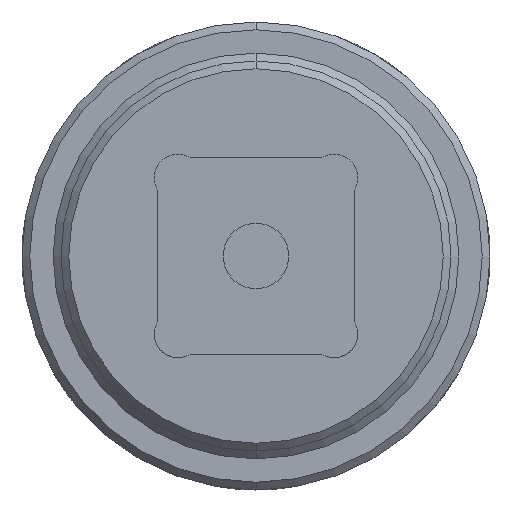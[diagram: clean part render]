
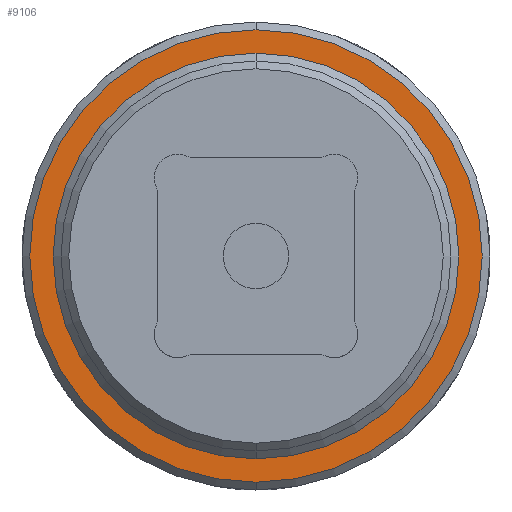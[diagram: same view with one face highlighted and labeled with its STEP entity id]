
A CAD part, front view. The second image highlights one B-rep face of the part: STEP entity #9106.
In plain terms, the highlighted planar face has unit normal (0, -1, 0).
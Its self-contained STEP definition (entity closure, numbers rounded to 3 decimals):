
#424 = CARTESIAN_POINT ( 'NONE',  ( -10.571, -27.003, 75. ) ) ;
#561 = AXIS2_PLACEMENT_3D ( 'NONE', #9326, #3386, #8279 ) ;
#642 = DIRECTION ( 'NONE',  ( 0., -1., 0. ) ) ;
#1466 = CARTESIAN_POINT ( 'NONE',  ( -10.571, -27.003, 89.5 ) ) ;
#1534 = DIRECTION ( 'NONE',  ( 0., 0., 1. ) ) ;
#1579 = DIRECTION ( 'NONE',  ( 0., 0., 1. ) ) ;
#1653 = VERTEX_POINT ( 'NONE', #1466 ) ;
#2092 = AXIS2_PLACEMENT_3D ( 'NONE', #9800, #4804, #1579 ) ;
#2094 = CIRCLE ( 'NONE', #9700, 13. ) ;
#2493 = ORIENTED_EDGE ( 'NONE', *, *, #10077, .T. ) ;
#2662 = EDGE_CURVE ( 'NONE', #5791, #3108, #8367, .T. ) ;
#3108 = VERTEX_POINT ( 'NONE', #8795 ) ;
#3120 = DIRECTION ( 'NONE',  ( 0., 0., 1. ) ) ;
#3252 = AXIS2_PLACEMENT_3D ( 'NONE', #3833, #642, #3120 ) ;
#3386 = DIRECTION ( 'NONE',  ( 0., -1., 0. ) ) ;
#3457 = DIRECTION ( 'NONE',  ( 0., 1., 0. ) ) ;
#3833 = CARTESIAN_POINT ( 'NONE',  ( -10.571, -27.003, 75. ) ) ;
#4435 = EDGE_CURVE ( 'NONE', #1653, #8597, #9618, .T. ) ;
#4804 = DIRECTION ( 'NONE',  ( 0., 1., 0. ) ) ;
#4906 = FACE_BOUND ( 'NONE', #9666, .T. ) ;
#5541 = DIRECTION ( 'NONE',  ( 0., 1., 0. ) ) ;
#5791 = VERTEX_POINT ( 'NONE', #9728 ) ;
#6273 = CIRCLE ( 'NONE', #3252, 14.5 ) ;
#6308 = CARTESIAN_POINT ( 'NONE',  ( -10.571, -27.003, 75. ) ) ;
#6509 = PLANE ( 'NONE',  #2092 ) ;
#6731 = ORIENTED_EDGE ( 'NONE', *, *, #7518, .T. ) ;
#6774 = AXIS2_PLACEMENT_3D ( 'NONE', #424, #3457, #9173 ) ;
#7518 = EDGE_CURVE ( 'NONE', #8597, #1653, #6273, .T. ) ;
#7708 = EDGE_LOOP ( 'NONE', ( #9767, #6731 ) ) ;
#8279 = DIRECTION ( 'NONE',  ( 0., 0., 1. ) ) ;
#8320 = CARTESIAN_POINT ( 'NONE',  ( -10.571, -27.003, 60.5 ) ) ;
#8367 = CIRCLE ( 'NONE', #6774, 13. ) ;
#8597 = VERTEX_POINT ( 'NONE', #8320 ) ;
#8636 = FACE_OUTER_BOUND ( 'NONE', #7708, .T. ) ;
#8795 = CARTESIAN_POINT ( 'NONE',  ( -10.571, -27.003, 62. ) ) ;
#9106 = ADVANCED_FACE ( 'NONE', ( #4906, #8636 ), #6509, .F. ) ;
#9173 = DIRECTION ( 'NONE',  ( 0., 0., 1. ) ) ;
#9326 = CARTESIAN_POINT ( 'NONE',  ( -10.571, -27.003, 75. ) ) ;
#9618 = CIRCLE ( 'NONE', #561, 14.5 ) ;
#9666 = EDGE_LOOP ( 'NONE', ( #9875, #2493 ) ) ;
#9700 = AXIS2_PLACEMENT_3D ( 'NONE', #6308, #5541, #1534 ) ;
#9728 = CARTESIAN_POINT ( 'NONE',  ( -10.571, -27.003, 88. ) ) ;
#9767 = ORIENTED_EDGE ( 'NONE', *, *, #4435, .T. ) ;
#9800 = CARTESIAN_POINT ( 'NONE',  ( -10.571, -27.003, 75. ) ) ;
#9875 = ORIENTED_EDGE ( 'NONE', *, *, #2662, .T. ) ;
#10077 = EDGE_CURVE ( 'NONE', #3108, #5791, #2094, .T. ) ;
